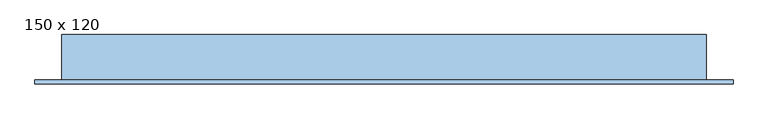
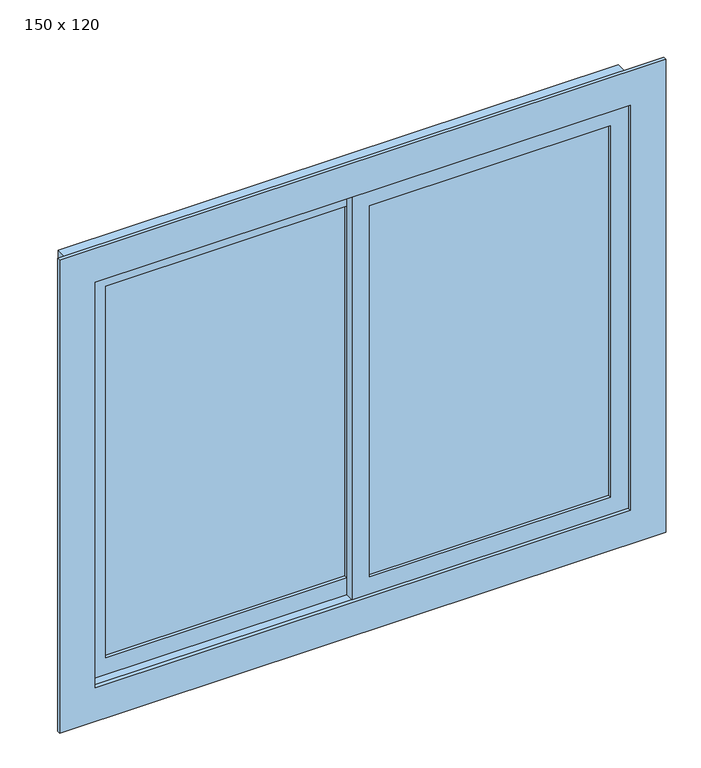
"""IFC4 building model written with IfcOpenShell, lengths in millimetres: window geometry, JANELA COM ESQUADRIA DE CORRER - 2 FOLHAS + VENEZIANA DE CORRER - 2 FOLHAS : 150 x 120."""

from ifc_helpers import new_model, si_unit, frame, origin, place, context, project, spatial, polyline, outline, extrude, source, transform, mapped, element, save


def window_150_x_120_ec33c482(model_context):
    return source(origin(), model_context, "Body", "SweptSolid", [
        extrude(outline(polyline([(19.1241605, 2085.4166667), (-0.8758395, 2120.4166667), (4.1241605, 2120.4166667), (24.1241605, 2085.4166667), (19.1241605, 2085.4166667)])), frame((-570.5964491, 0.0, 0.0), z_axis=(1.0, 0.0, 0.0), x_axis=(0.0, 1.0, 0.0)), (0.0, 0.0, 1.0), 675.0),
        extrude(outline(polyline([(19.1241605, 2055.8333333), (-0.8758395, 2090.8333333), (4.1241605, 2090.8333333), (24.1241605, 2055.8333333), (19.1241605, 2055.8333333)])), frame((-570.5964491, 0.0, 0.0), z_axis=(1.0, 0.0, 0.0), x_axis=(0.0, 1.0, 0.0)), (0.0, 0.0, 1.0), 675.0),
        extrude(outline(polyline([(19.1241605, 2026.25), (-0.8758395, 2061.25), (4.1241605, 2061.25), (24.1241605, 2026.25), (19.1241605, 2026.25)])), frame((-570.5964491, 0.0, 0.0), z_axis=(1.0, 0.0, 0.0), x_axis=(0.0, 1.0, 0.0)), (0.0, 0.0, 1.0), 675.0),
        extrude(outline(polyline([(19.1241605, 1996.6666667), (-0.8758395, 2031.6666667), (4.1241605, 2031.6666667), (24.1241605, 1996.6666667), (19.1241605, 1996.6666667)])), frame((-570.5964491, 0.0, 0.0), z_axis=(1.0, 0.0, 0.0), x_axis=(0.0, 1.0, 0.0)), (0.0, 0.0, 1.0), 675.0),
        extrude(outline(polyline([(19.1241605, 1967.0833333), (-0.8758395, 2002.0833333), (4.1241605, 2002.0833333), (24.1241605, 1967.0833333), (19.1241605, 1967.0833333)])), frame((-570.5964491, 0.0, 0.0), z_axis=(1.0, 0.0, 0.0), x_axis=(0.0, 1.0, 0.0)), (0.0, 0.0, 1.0), 675.0),
        extrude(outline(polyline([(19.1241605, 1937.5), (-0.8758395, 1972.5), (4.1241605, 1972.5), (24.1241605, 1937.5), (19.1241605, 1937.5)])), frame((-570.5964491, 0.0, 0.0), z_axis=(1.0, 0.0, 0.0), x_axis=(0.0, 1.0, 0.0)), (0.0, 0.0, 1.0), 675.0),
        extrude(outline(polyline([(19.1241605, 1907.9166667), (-0.8758395, 1942.9166667), (4.1241605, 1942.9166667), (24.1241605, 1907.9166667), (19.1241605, 1907.9166667)])), frame((-570.5964491, 0.0, 0.0), z_axis=(1.0, 0.0, 0.0), x_axis=(0.0, 1.0, 0.0)), (0.0, 0.0, 1.0), 675.0),
        extrude(outline(polyline([(19.1241605, 1878.3333333), (-0.8758395, 1913.3333333), (4.1241605, 1913.3333333), (24.1241605, 1878.3333333), (19.1241605, 1878.3333333)])), frame((-570.5964491, 0.0, 0.0), z_axis=(1.0, 0.0, 0.0), x_axis=(0.0, 1.0, 0.0)), (0.0, 0.0, 1.0), 675.0),
        extrude(outline(polyline([(19.1241605, 1848.75), (-0.8758395, 1883.75), (4.1241605, 1883.75), (24.1241605, 1848.75), (19.1241605, 1848.75)])), frame((-570.5964491, 0.0, 0.0), z_axis=(1.0, 0.0, 0.0), x_axis=(0.0, 1.0, 0.0)), (0.0, 0.0, 1.0), 675.0),
        extrude(outline(polyline([(19.1241605, 1819.1666667), (-0.8758395, 1854.1666667), (4.1241605, 1854.1666667), (24.1241605, 1819.1666667), (19.1241605, 1819.1666667)])), frame((-570.5964491, 0.0, 0.0), z_axis=(1.0, 0.0, 0.0), x_axis=(0.0, 1.0, 0.0)), (0.0, 0.0, 1.0), 675.0),
        extrude(outline(polyline([(19.1241605, 1789.5833333), (-0.8758395, 1824.5833333), (4.1241605, 1824.5833333), (24.1241605, 1789.5833333), (19.1241605, 1789.5833333)])), frame((-570.5964491, 0.0, 0.0), z_axis=(1.0, 0.0, 0.0), x_axis=(0.0, 1.0, 0.0)), (0.0, 0.0, 1.0), 675.0),
        extrude(outline(polyline([(19.1241605, 1760.0), (-0.8758395, 1795.0), (4.1241605, 1795.0), (24.1241605, 1760.0), (19.1241605, 1760.0)])), frame((-570.5964491, 0.0, 0.0), z_axis=(1.0, 0.0, 0.0), x_axis=(0.0, 1.0, 0.0)), (0.0, 0.0, 1.0), 675.0),
        extrude(outline(polyline([(19.1241605, 1730.4166667), (-0.8758395, 1765.4166667), (4.1241605, 1765.4166667), (24.1241605, 1730.4166667), (19.1241605, 1730.4166667)])), frame((-570.5964491, 0.0, 0.0), z_axis=(1.0, 0.0, 0.0), x_axis=(0.0, 1.0, 0.0)), (0.0, 0.0, 1.0), 675.0),
        extrude(outline(polyline([(19.1241605, 1700.8333333), (-0.8758395, 1735.8333333), (4.1241605, 1735.8333333), (24.1241605, 1700.8333333), (19.1241605, 1700.8333333)])), frame((-570.5964491, 0.0, 0.0), z_axis=(1.0, 0.0, 0.0), x_axis=(0.0, 1.0, 0.0)), (0.0, 0.0, 1.0), 675.0),
        extrude(outline(polyline([(19.1241605, 1671.25), (-0.8758395, 1706.25), (4.1241605, 1706.25), (24.1241605, 1671.25), (19.1241605, 1671.25)])), frame((-570.5964491, 0.0, 0.0), z_axis=(1.0, 0.0, 0.0), x_axis=(0.0, 1.0, 0.0)), (0.0, 0.0, 1.0), 675.0),
        extrude(outline(polyline([(19.1241605, 1641.6666667), (-0.8758395, 1676.6666667), (4.1241605, 1676.6666667), (24.1241605, 1641.6666667), (19.1241605, 1641.6666667)])), frame((-570.5964491, 0.0, 0.0), z_axis=(1.0, 0.0, 0.0), x_axis=(0.0, 1.0, 0.0)), (0.0, 0.0, 1.0), 675.0),
        extrude(outline(polyline([(19.1241605, 1612.0833333), (-0.8758395, 1647.0833333), (4.1241605, 1647.0833333), (24.1241605, 1612.0833333), (19.1241605, 1612.0833333)])), frame((-570.5964491, 0.0, 0.0), z_axis=(1.0, 0.0, 0.0), x_axis=(0.0, 1.0, 0.0)), (0.0, 0.0, 1.0), 675.0),
        extrude(outline(polyline([(19.1241605, 1582.5), (-0.8758395, 1617.5), (4.1241605, 1617.5), (24.1241605, 1582.5), (19.1241605, 1582.5)])), frame((-570.5964491, 0.0, 0.0), z_axis=(1.0, 0.0, 0.0), x_axis=(0.0, 1.0, 0.0)), (0.0, 0.0, 1.0), 675.0),
        extrude(outline(polyline([(19.1241605, 1552.9166667), (-0.8758395, 1587.9166667), (4.1241605, 1587.9166667), (24.1241605, 1552.9166667), (19.1241605, 1552.9166667)])), frame((-570.5964491, 0.0, 0.0), z_axis=(1.0, 0.0, 0.0), x_axis=(0.0, 1.0, 0.0)), (0.0, 0.0, 1.0), 675.0),
        extrude(outline(polyline([(19.1241605, 1523.3333333), (-0.8758395, 1558.3333333), (4.1241605, 1558.3333333), (24.1241605, 1523.3333333), (19.1241605, 1523.3333333)])), frame((-570.5964491, 0.0, 0.0), z_axis=(1.0, 0.0, 0.0), x_axis=(0.0, 1.0, 0.0)), (0.0, 0.0, 1.0), 675.0),
        extrude(outline(polyline([(19.1241605, 1493.75), (-0.8758395, 1528.75), (4.1241605, 1528.75), (24.1241605, 1493.75), (19.1241605, 1493.75)])), frame((-570.5964491, 0.0, 0.0), z_axis=(1.0, 0.0, 0.0), x_axis=(0.0, 1.0, 0.0)), (0.0, 0.0, 1.0), 675.0),
        extrude(outline(polyline([(19.1241605, 1464.1666667), (-0.8758395, 1499.1666667), (4.1241605, 1499.1666667), (24.1241605, 1464.1666667), (19.1241605, 1464.1666667)])), frame((-570.5964491, 0.0, 0.0), z_axis=(1.0, 0.0, 0.0), x_axis=(0.0, 1.0, 0.0)), (0.0, 0.0, 1.0), 675.0),
        extrude(outline(polyline([(19.1241605, 1434.5833333), (-0.8758395, 1469.5833333), (4.1241605, 1469.5833333), (24.1241605, 1434.5833333), (19.1241605, 1434.5833333)])), frame((-570.5964491, 0.0, 0.0), z_axis=(1.0, 0.0, 0.0), x_axis=(0.0, 1.0, 0.0)), (0.0, 0.0, 1.0), 675.0),
        extrude(outline(polyline([(19.1241605, 1405.0), (-0.8758395, 1440.0), (4.1241605, 1440.0), (24.1241605, 1405.0), (19.1241605, 1405.0)])), frame((-570.5964491, 0.0, 0.0), z_axis=(1.0, 0.0, 0.0), x_axis=(0.0, 1.0, 0.0)), (0.0, 0.0, 1.0), 675.0),
        extrude(outline(polyline([(19.1241605, 1375.4166667), (-0.8758395, 1410.4166667), (4.1241605, 1410.4166667), (24.1241605, 1375.4166667), (19.1241605, 1375.4166667)])), frame((-570.5964491, 0.0, 0.0), z_axis=(1.0, 0.0, 0.0), x_axis=(0.0, 1.0, 0.0)), (0.0, 0.0, 1.0), 675.0),
        extrude(outline(polyline([(19.1241605, 1345.8333333), (-0.8758395, 1380.8333333), (4.1241605, 1380.8333333), (24.1241605, 1345.8333333), (19.1241605, 1345.8333333)])), frame((-570.5964491, 0.0, 0.0), z_axis=(1.0, 0.0, 0.0), x_axis=(0.0, 1.0, 0.0)), (0.0, 0.0, 1.0), 675.0),
        extrude(outline(polyline([(19.1241605, 1316.25), (-0.8758395, 1351.25), (4.1241605, 1351.25), (24.1241605, 1316.25), (19.1241605, 1316.25)])), frame((-570.5964491, 0.0, 0.0), z_axis=(1.0, 0.0, 0.0), x_axis=(0.0, 1.0, 0.0)), (0.0, 0.0, 1.0), 675.0),
        extrude(outline(polyline([(19.1241605, 1286.6666667), (-0.8758395, 1321.6666667), (4.1241605, 1321.6666667), (24.1241605, 1286.6666667), (19.1241605, 1286.6666667)])), frame((-570.5964491, 0.0, 0.0), z_axis=(1.0, 0.0, 0.0), x_axis=(0.0, 1.0, 0.0)), (0.0, 0.0, 1.0), 675.0),
        extrude(outline(polyline([(19.1241605, 1257.0833333), (-0.8758395, 1292.0833333), (4.1241605, 1292.0833333), (24.1241605, 1257.0833333), (19.1241605, 1257.0833333)])), frame((-570.5964491, 0.0, 0.0), z_axis=(1.0, 0.0, 0.0), x_axis=(0.0, 1.0, 0.0)), (0.0, 0.0, 1.0), 675.0),
        extrude(outline(polyline([(19.1241605, 1227.5), (-0.8758395, 1262.5), (4.1241605, 1262.5), (24.1241605, 1227.5), (19.1241605, 1227.5)])), frame((-570.5964491, 0.0, 0.0), z_axis=(1.0, 0.0, 0.0), x_axis=(0.0, 1.0, 0.0)), (0.0, 0.0, 1.0), 675.0),
        extrude(outline(polyline([(19.1241605, 1197.9166667), (-0.8758395, 1232.9166667), (4.1241605, 1232.9166667), (24.1241605, 1197.9166667), (19.1241605, 1197.9166667)])), frame((-570.5964491, 0.0, 0.0), z_axis=(1.0, 0.0, 0.0), x_axis=(0.0, 1.0, 0.0)), (0.0, 0.0, 1.0), 675.0),
        extrude(outline(polyline([(19.1241605, 1168.3333333), (-0.8758395, 1203.3333333), (4.1241605, 1203.3333333), (24.1241605, 1168.3333333), (19.1241605, 1168.3333333)])), frame((-570.5964491, 0.0, 0.0), z_axis=(1.0, 0.0, 0.0), x_axis=(0.0, 1.0, 0.0)), (0.0, 0.0, 1.0), 675.0),
        extrude(outline(polyline([(19.1241605, 1138.75), (-0.8758395, 1173.75), (4.1241605, 1173.75), (24.1241605, 1138.75), (19.1241605, 1138.75)])), frame((-570.5964491, 0.0, 0.0), z_axis=(1.0, 0.0, 0.0), x_axis=(0.0, 1.0, 0.0)), (0.0, 0.0, 1.0), 675.0),
        extrude(outline(polyline([(19.1241605, 1109.1666667), (-0.8758395, 1144.1666667), (4.1241605, 1144.1666667), (24.1241605, 1109.1666667), (19.1241605, 1109.1666667)])), frame((-570.5964491, 0.0, 0.0), z_axis=(1.0, 0.0, 0.0), x_axis=(0.0, 1.0, 0.0)), (0.0, 0.0, 1.0), 675.0),
        extrude(outline(polyline([(19.1241605, 1079.5833333), (-0.8758395, 1114.5833333), (4.1241605, 1114.5833333), (24.1241605, 1079.5833333), (19.1241605, 1079.5833333)])), frame((-570.5964491, 0.0, 0.0), z_axis=(1.0, 0.0, 0.0), x_axis=(0.0, 1.0, 0.0)), (0.0, 0.0, 1.0), 675.0),
        extrude(outline(polyline([(19.1241605, 2115.0), (-0.8758395, 2150.0), (4.1241605, 2150.0), (24.1241605, 2115.0), (19.1241605, 2115.0)])), frame((-570.5964491, 0.0, 0.0), z_axis=(1.0, 0.0, 0.0), x_axis=(0.0, 1.0, 0.0)), (0.0, 0.0, 1.0), 675.0),
        extrude(outline(polyline([(19.1241605, 1050.0), (-0.8758395, 1085.0), (4.1241605, 1085.0), (24.1241605, 1050.0), (19.1241605, 1050.0)])), frame((-570.5964491, 0.0, 0.0), z_axis=(1.0, 0.0, 0.0), x_axis=(0.0, 1.0, 0.0)), (0.0, 0.0, 1.0), 675.0),
        extrude(outline(polyline([(2200.0, -620.5964491), (1000.0, -620.5964491), (1000.0, 154.4035509), (2200.0, 154.4035509), (2200.0, -620.5964491)]), holes=[polyline([(2150.0, -570.5964491), (2150.0, 104.4035509), (1050.0, 104.4035509), (1050.0, -570.5964491), (2150.0, -570.5964491)])]), frame((0.0, -0.8758395, 0.0), z_axis=(0.0, 1.0, 0.0), x_axis=(0.0, 0.0, 1.0)), (0.0, 0.0, 1.0), 25.0),
        extrude(outline(polyline([(-5.8758395, 2085.4166667), (-25.8758395, 2120.4166667), (-20.8758395, 2120.4166667), (-0.8758395, 2085.4166667), (-5.8758395, 2085.4166667)])), frame((-470.5964491, 0.0, 0.0), z_axis=(1.0, 0.0, 0.0), x_axis=(0.0, 1.0, 0.0)), (0.0, 0.0, 1.0), 675.0),
        extrude(outline(polyline([(-5.8758395, 2055.8333333), (-25.8758395, 2090.8333333), (-20.8758395, 2090.8333333), (-0.8758395, 2055.8333333), (-5.8758395, 2055.8333333)])), frame((-470.5964491, 0.0, 0.0), z_axis=(1.0, 0.0, 0.0), x_axis=(0.0, 1.0, 0.0)), (0.0, 0.0, 1.0), 675.0),
        extrude(outline(polyline([(-5.8758395, 2026.25), (-25.8758395, 2061.25), (-20.8758395, 2061.25), (-0.8758395, 2026.25), (-5.8758395, 2026.25)])), frame((-470.5964491, 0.0, 0.0), z_axis=(1.0, 0.0, 0.0), x_axis=(0.0, 1.0, 0.0)), (0.0, 0.0, 1.0), 675.0),
        extrude(outline(polyline([(-5.8758395, 1996.6666667), (-25.8758395, 2031.6666667), (-20.8758395, 2031.6666667), (-0.8758395, 1996.6666667), (-5.8758395, 1996.6666667)])), frame((-470.5964491, 0.0, 0.0), z_axis=(1.0, 0.0, 0.0), x_axis=(0.0, 1.0, 0.0)), (0.0, 0.0, 1.0), 675.0),
        extrude(outline(polyline([(-5.8758395, 1967.0833333), (-25.8758395, 2002.0833333), (-20.8758395, 2002.0833333), (-0.8758395, 1967.0833333), (-5.8758395, 1967.0833333)])), frame((-470.5964491, 0.0, 0.0), z_axis=(1.0, 0.0, 0.0), x_axis=(0.0, 1.0, 0.0)), (0.0, 0.0, 1.0), 675.0),
        extrude(outline(polyline([(-5.8758395, 1937.5), (-25.8758395, 1972.5), (-20.8758395, 1972.5), (-0.8758395, 1937.5), (-5.8758395, 1937.5)])), frame((-470.5964491, 0.0, 0.0), z_axis=(1.0, 0.0, 0.0), x_axis=(0.0, 1.0, 0.0)), (0.0, 0.0, 1.0), 675.0),
        extrude(outline(polyline([(-5.8758395, 1907.9166667), (-25.8758395, 1942.9166667), (-20.8758395, 1942.9166667), (-0.8758395, 1907.9166667), (-5.8758395, 1907.9166667)])), frame((-470.5964491, 0.0, 0.0), z_axis=(1.0, 0.0, 0.0), x_axis=(0.0, 1.0, 0.0)), (0.0, 0.0, 1.0), 675.0),
        extrude(outline(polyline([(-5.8758395, 1878.3333333), (-25.8758395, 1913.3333333), (-20.8758395, 1913.3333333), (-0.8758395, 1878.3333333), (-5.8758395, 1878.3333333)])), frame((-470.5964491, 0.0, 0.0), z_axis=(1.0, 0.0, 0.0), x_axis=(0.0, 1.0, 0.0)), (0.0, 0.0, 1.0), 675.0),
        extrude(outline(polyline([(-5.8758395, 1848.75), (-25.8758395, 1883.75), (-20.8758395, 1883.75), (-0.8758395, 1848.75), (-5.8758395, 1848.75)])), frame((-470.5964491, 0.0, 0.0), z_axis=(1.0, 0.0, 0.0), x_axis=(0.0, 1.0, 0.0)), (0.0, 0.0, 1.0), 675.0),
        extrude(outline(polyline([(-5.8758395, 1819.1666667), (-25.8758395, 1854.1666667), (-20.8758395, 1854.1666667), (-0.8758395, 1819.1666667), (-5.8758395, 1819.1666667)])), frame((-470.5964491, 0.0, 0.0), z_axis=(1.0, 0.0, 0.0), x_axis=(0.0, 1.0, 0.0)), (0.0, 0.0, 1.0), 675.0),
        extrude(outline(polyline([(-5.8758395, 1789.5833333), (-25.8758395, 1824.5833333), (-20.8758395, 1824.5833333), (-0.8758395, 1789.5833333), (-5.8758395, 1789.5833333)])), frame((-470.5964491, 0.0, 0.0), z_axis=(1.0, 0.0, 0.0), x_axis=(0.0, 1.0, 0.0)), (0.0, 0.0, 1.0), 675.0),
        extrude(outline(polyline([(-5.8758395, 1760.0), (-25.8758395, 1795.0), (-20.8758395, 1795.0), (-0.8758395, 1760.0), (-5.8758395, 1760.0)])), frame((-470.5964491, 0.0, 0.0), z_axis=(1.0, 0.0, 0.0), x_axis=(0.0, 1.0, 0.0)), (0.0, 0.0, 1.0), 675.0),
        extrude(outline(polyline([(-5.8758395, 1730.4166667), (-25.8758395, 1765.4166667), (-20.8758395, 1765.4166667), (-0.8758395, 1730.4166667), (-5.8758395, 1730.4166667)])), frame((-470.5964491, 0.0, 0.0), z_axis=(1.0, 0.0, 0.0), x_axis=(0.0, 1.0, 0.0)), (0.0, 0.0, 1.0), 675.0),
        extrude(outline(polyline([(-5.8758395, 1700.8333333), (-25.8758395, 1735.8333333), (-20.8758395, 1735.8333333), (-0.8758395, 1700.8333333), (-5.8758395, 1700.8333333)])), frame((-470.5964491, 0.0, 0.0), z_axis=(1.0, 0.0, 0.0), x_axis=(0.0, 1.0, 0.0)), (0.0, 0.0, 1.0), 675.0),
        extrude(outline(polyline([(-5.8758395, 1671.25), (-25.8758395, 1706.25), (-20.8758395, 1706.25), (-0.8758395, 1671.25), (-5.8758395, 1671.25)])), frame((-470.5964491, 0.0, 0.0), z_axis=(1.0, 0.0, 0.0), x_axis=(0.0, 1.0, 0.0)), (0.0, 0.0, 1.0), 675.0),
        extrude(outline(polyline([(-5.8758395, 1641.6666667), (-25.8758395, 1676.6666667), (-20.8758395, 1676.6666667), (-0.8758395, 1641.6666667), (-5.8758395, 1641.6666667)])), frame((-470.5964491, 0.0, 0.0), z_axis=(1.0, 0.0, 0.0), x_axis=(0.0, 1.0, 0.0)), (0.0, 0.0, 1.0), 675.0),
        extrude(outline(polyline([(-5.8758395, 1612.0833333), (-25.8758395, 1647.0833333), (-20.8758395, 1647.0833333), (-0.8758395, 1612.0833333), (-5.8758395, 1612.0833333)])), frame((-470.5964491, 0.0, 0.0), z_axis=(1.0, 0.0, 0.0), x_axis=(0.0, 1.0, 0.0)), (0.0, 0.0, 1.0), 675.0),
        extrude(outline(polyline([(-5.8758395, 1582.5), (-25.8758395, 1617.5), (-20.8758395, 1617.5), (-0.8758395, 1582.5), (-5.8758395, 1582.5)])), frame((-470.5964491, 0.0, 0.0), z_axis=(1.0, 0.0, 0.0), x_axis=(0.0, 1.0, 0.0)), (0.0, 0.0, 1.0), 675.0),
        extrude(outline(polyline([(-5.8758395, 1552.9166667), (-25.8758395, 1587.9166667), (-20.8758395, 1587.9166667), (-0.8758395, 1552.9166667), (-5.8758395, 1552.9166667)])), frame((-470.5964491, 0.0, 0.0), z_axis=(1.0, 0.0, 0.0), x_axis=(0.0, 1.0, 0.0)), (0.0, 0.0, 1.0), 675.0),
        extrude(outline(polyline([(-5.8758395, 1523.3333333), (-25.8758395, 1558.3333333), (-20.8758395, 1558.3333333), (-0.8758395, 1523.3333333), (-5.8758395, 1523.3333333)])), frame((-470.5964491, 0.0, 0.0), z_axis=(1.0, 0.0, 0.0), x_axis=(0.0, 1.0, 0.0)), (0.0, 0.0, 1.0), 675.0),
        extrude(outline(polyline([(-5.8758395, 1493.75), (-25.8758395, 1528.75), (-20.8758395, 1528.75), (-0.8758395, 1493.75), (-5.8758395, 1493.75)])), frame((-470.5964491, 0.0, 0.0), z_axis=(1.0, 0.0, 0.0), x_axis=(0.0, 1.0, 0.0)), (0.0, 0.0, 1.0), 675.0),
        extrude(outline(polyline([(-5.8758395, 1464.1666667), (-25.8758395, 1499.1666667), (-20.8758395, 1499.1666667), (-0.8758395, 1464.1666667), (-5.8758395, 1464.1666667)])), frame((-470.5964491, 0.0, 0.0), z_axis=(1.0, 0.0, 0.0), x_axis=(0.0, 1.0, 0.0)), (0.0, 0.0, 1.0), 675.0),
        extrude(outline(polyline([(-5.8758395, 1434.5833333), (-25.8758395, 1469.5833333), (-20.8758395, 1469.5833333), (-0.8758395, 1434.5833333), (-5.8758395, 1434.5833333)])), frame((-470.5964491, 0.0, 0.0), z_axis=(1.0, 0.0, 0.0), x_axis=(0.0, 1.0, 0.0)), (0.0, 0.0, 1.0), 675.0),
        extrude(outline(polyline([(-5.8758395, 1405.0), (-25.8758395, 1440.0), (-20.8758395, 1440.0), (-0.8758395, 1405.0), (-5.8758395, 1405.0)])), frame((-470.5964491, 0.0, 0.0), z_axis=(1.0, 0.0, 0.0), x_axis=(0.0, 1.0, 0.0)), (0.0, 0.0, 1.0), 675.0),
        extrude(outline(polyline([(-5.8758395, 1375.4166667), (-25.8758395, 1410.4166667), (-20.8758395, 1410.4166667), (-0.8758395, 1375.4166667), (-5.8758395, 1375.4166667)])), frame((-470.5964491, 0.0, 0.0), z_axis=(1.0, 0.0, 0.0), x_axis=(0.0, 1.0, 0.0)), (0.0, 0.0, 1.0), 675.0),
        extrude(outline(polyline([(-5.8758395, 1345.8333333), (-25.8758395, 1380.8333333), (-20.8758395, 1380.8333333), (-0.8758395, 1345.8333333), (-5.8758395, 1345.8333333)])), frame((-470.5964491, 0.0, 0.0), z_axis=(1.0, 0.0, 0.0), x_axis=(0.0, 1.0, 0.0)), (0.0, 0.0, 1.0), 675.0),
        extrude(outline(polyline([(-5.8758395, 1316.25), (-25.8758395, 1351.25), (-20.8758395, 1351.25), (-0.8758395, 1316.25), (-5.8758395, 1316.25)])), frame((-470.5964491, 0.0, 0.0), z_axis=(1.0, 0.0, 0.0), x_axis=(0.0, 1.0, 0.0)), (0.0, 0.0, 1.0), 675.0),
        extrude(outline(polyline([(-5.8758395, 1286.6666667), (-25.8758395, 1321.6666667), (-20.8758395, 1321.6666667), (-0.8758395, 1286.6666667), (-5.8758395, 1286.6666667)])), frame((-470.5964491, 0.0, 0.0), z_axis=(1.0, 0.0, 0.0), x_axis=(0.0, 1.0, 0.0)), (0.0, 0.0, 1.0), 675.0),
        extrude(outline(polyline([(-5.8758395, 1257.0833333), (-25.8758395, 1292.0833333), (-20.8758395, 1292.0833333), (-0.8758395, 1257.0833333), (-5.8758395, 1257.0833333)])), frame((-470.5964491, 0.0, 0.0), z_axis=(1.0, 0.0, 0.0), x_axis=(0.0, 1.0, 0.0)), (0.0, 0.0, 1.0), 675.0),
        extrude(outline(polyline([(-5.8758395, 1227.5), (-25.8758395, 1262.5), (-20.8758395, 1262.5), (-0.8758395, 1227.5), (-5.8758395, 1227.5)])), frame((-470.5964491, 0.0, 0.0), z_axis=(1.0, 0.0, 0.0), x_axis=(0.0, 1.0, 0.0)), (0.0, 0.0, 1.0), 675.0),
        extrude(outline(polyline([(-5.8758395, 1197.9166667), (-25.8758395, 1232.9166667), (-20.8758395, 1232.9166667), (-0.8758395, 1197.9166667), (-5.8758395, 1197.9166667)])), frame((-470.5964491, 0.0, 0.0), z_axis=(1.0, 0.0, 0.0), x_axis=(0.0, 1.0, 0.0)), (0.0, 0.0, 1.0), 675.0),
        extrude(outline(polyline([(-5.8758395, 1168.3333333), (-25.8758395, 1203.3333333), (-20.8758395, 1203.3333333), (-0.8758395, 1168.3333333), (-5.8758395, 1168.3333333)])), frame((-470.5964491, 0.0, 0.0), z_axis=(1.0, 0.0, 0.0), x_axis=(0.0, 1.0, 0.0)), (0.0, 0.0, 1.0), 675.0),
        extrude(outline(polyline([(-5.8758395, 1138.75), (-25.8758395, 1173.75), (-20.8758395, 1173.75), (-0.8758395, 1138.75), (-5.8758395, 1138.75)])), frame((-470.5964491, 0.0, 0.0), z_axis=(1.0, 0.0, 0.0), x_axis=(0.0, 1.0, 0.0)), (0.0, 0.0, 1.0), 675.0),
        extrude(outline(polyline([(-5.8758395, 1109.1666667), (-25.8758395, 1144.1666667), (-20.8758395, 1144.1666667), (-0.8758395, 1109.1666667), (-5.8758395, 1109.1666667)])), frame((-470.5964491, 0.0, 0.0), z_axis=(1.0, 0.0, 0.0), x_axis=(0.0, 1.0, 0.0)), (0.0, 0.0, 1.0), 675.0),
        extrude(outline(polyline([(-5.8758395, 1079.5833333), (-25.8758395, 1114.5833333), (-20.8758395, 1114.5833333), (-0.8758395, 1079.5833333), (-5.8758395, 1079.5833333)])), frame((-470.5964491, 0.0, 0.0), z_axis=(1.0, 0.0, 0.0), x_axis=(0.0, 1.0, 0.0)), (0.0, 0.0, 1.0), 675.0),
        extrude(outline(polyline([(-5.8758395, 2115.0), (-25.8758395, 2150.0), (-20.8758395, 2150.0), (-0.8758395, 2115.0), (-5.8758395, 2115.0)])), frame((-470.5964491, 0.0, 0.0), z_axis=(1.0, 0.0, 0.0), x_axis=(0.0, 1.0, 0.0)), (0.0, 0.0, 1.0), 675.0),
        extrude(outline(polyline([(-5.8758395, 1050.0), (-25.8758395, 1085.0), (-20.8758395, 1085.0), (-0.8758395, 1050.0), (-5.8758395, 1050.0)])), frame((-470.5964491, 0.0, 0.0), z_axis=(1.0, 0.0, 0.0), x_axis=(0.0, 1.0, 0.0)), (0.0, 0.0, 1.0), 675.0),
        extrude(outline(polyline([(2200.0, -520.5964491), (1000.0, -520.5964491), (1000.0, 254.4035509), (2200.0, 254.4035509), (2200.0, -520.5964491)]), holes=[polyline([(2150.0, -470.5964491), (2150.0, 204.4035509), (1050.0, 204.4035509), (1050.0, -470.5964491), (2150.0, -470.5964491)])]), frame((0.0, -25.8758395, 0.0), z_axis=(0.0, 1.0, 0.0), x_axis=(0.0, 0.0, 1.0)), (0.0, 0.0, 1.0), 25.0),
        extrude(outline(polyline([(-570.5964491, -35.3758395), (104.4035509, -35.3758395), (104.4035509, -41.3758395), (-570.5964491, -41.3758395), (-570.5964491, -35.3758395)])), frame((0.0, 0.0, 1050.0), z_axis=(0.0, 0.0, 1.0), x_axis=(1.0, 0.0, 0.0)), (0.0, 0.0, 1.0), 1100.0),
        extrude(outline(polyline([(2200.0, -620.5964491), (1000.0, -620.5964491), (1000.0, 154.4035509), (2200.0, 154.4035509), (2200.0, -620.5964491)]), holes=[polyline([(2150.0, -570.5964491), (2150.0, 104.4035509), (1050.0, 104.4035509), (1050.0, -570.5964491), (2150.0, -570.5964491)])]), frame((0.0, -50.8758395, 0.0), z_axis=(0.0, 1.0, 0.0), x_axis=(0.0, 0.0, 1.0)), (0.0, 0.0, 1.0), 25.0),
        extrude(outline(polyline([(829.4035509, -60.3758395), (829.4035509, -66.3758395), (154.4035509, -66.3758395), (154.4035509, -60.3758395), (829.4035509, -60.3758395)])), frame((0.0, 0.0, 1050.0), z_axis=(0.0, 0.0, 1.0), x_axis=(1.0, 0.0, 0.0)), (0.0, 0.0, 1.0), 1100.0),
        extrude(outline(polyline([(2200.0, 879.4035509), (2200.0, 104.4035509), (1000.0, 104.4035509), (1000.0, 879.4035509), (2200.0, 879.4035509)]), holes=[polyline([(2150.0, 829.4035509), (1050.0, 829.4035509), (1050.0, 154.4035509), (2150.0, 154.4035509), (2150.0, 829.4035509)])]), frame((0.0, -75.8758395, 0.0), z_axis=(0.0, 1.0, 0.0), x_axis=(0.0, 0.0, 1.0)), (0.0, 0.0, 1.0), 25.0),
        extrude(outline(polyline([(900.0, -720.5964491), (900.0, 979.4035509), (2300.0, 979.4035509), (2300.0, -720.5964491), (900.0, -720.5964491)]), holes=[polyline([(2200.0, -620.5964491), (2200.0, 879.4035509), (1000.0, 879.4035509), (1000.0, -620.5964491), (2200.0, -620.5964491)])]), frame((0.0, -85.8758395, 0.0), z_axis=(0.0, 1.0, 0.0), x_axis=(0.0, 0.0, 1.0)), (0.0, 0.0, 1.0), 10.0),
        extrude(outline(polyline([(-655.5964491, 34.1241605), (-620.5964491, 34.1241605), (-620.5964491, -75.8758395), (-655.5964491, -75.8758395), (-655.5964491, 34.1241605)])), frame((0.0, 0.0, 1000.0), z_axis=(0.0, 0.0, 1.0), x_axis=(1.0, 0.0, 0.0)), (0.0, 0.0, 1.0), 1200.0),
        extrude(outline(polyline([(879.4035509, 34.1241605), (914.4035509, 34.1241605), (914.4035509, -75.8758395), (879.4035509, -75.8758395), (879.4035509, 34.1241605)])), frame((0.0, 0.0, 1000.0), z_axis=(0.0, 0.0, 1.0), x_axis=(1.0, 0.0, 0.0)), (0.0, 0.0, 1.0), 1200.0),
        extrude(outline(polyline([(-655.5964491, 34.1241605), (914.4035509, 34.1241605), (914.4035509, -75.8758395), (-655.5964491, -75.8758395), (-655.5964491, 34.1241605)])), frame((0.0, 0.0, 965.0), z_axis=(0.0, 0.0, 1.0), x_axis=(1.0, 0.0, 0.0)), (0.0, 0.0, 1.0), 35.0),
        extrude(outline(polyline([(-655.5964491, 34.1241605), (914.4035509, 34.1241605), (914.4035509, -75.8758395), (-655.5964491, -75.8758395), (-655.5964491, 34.1241605)])), frame((0.0, 0.0, 2200.0), z_axis=(0.0, 0.0, 1.0), x_axis=(1.0, 0.0, 0.0)), (0.0, 0.0, 1.0), 35.0),
    ])


if __name__ == "__main__":
    model = new_model("IFC4")
    model_context = context("Model", 3, world=origin())
    ifc_project = project(units=[si_unit("LENGTHUNIT", "METRE", prefix="MILLI")], contexts=[model_context])
    site = spatial("IfcSite", under=ifc_project)
    building = spatial("IfcBuilding", under=site)
    placement = place(None, origin())
    window_150_x_120_shape = window_150_x_120_ec33c482(model_context)
    element("IfcWindow", 1, ObjectType="JANELA COM ESQUADRIA DE CORRER - 2 FOLHAS + VENEZIANA DE CORRER - 2 FOLHAS : 150 x 120", at=placement, inside=building, context=model_context, shape_type="MappedRepresentation", body=[
        mapped(window_150_x_120_shape, transform((0.0, 0.0, 0.0), x_axis=(1.0, 0.0, 0.0), y_axis=(0.0, 1.0, 0.0), z_axis=(0.0, 0.0, 1.0))),
    ])
    save(model, "model.ifc")
